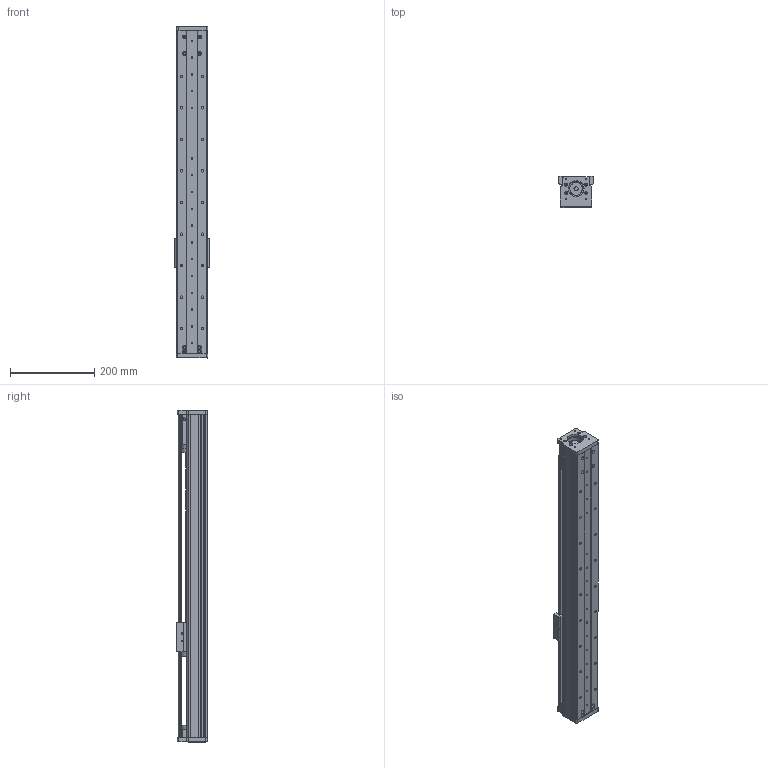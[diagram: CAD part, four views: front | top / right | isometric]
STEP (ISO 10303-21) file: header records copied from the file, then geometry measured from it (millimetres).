
FILE_DESCRIPTION (( 'STEP AP203' ), '1' );
FILE_NAME ('CF75-P550.STEP', '2016-02-22T03:09:54', ( 'Sky123.Org' ), ( 'Sky123.Org' ), 'SwSTEP 2.0', 'SolidWorks 2015', '' );
FILE_SCHEMA (( 'CONFIG_CONTROL_DESIGN' ));
Length unit declared in the file: millimetre
Products named in the file (17): 75-57祭輛萇儂假蚾啣; SFU1605-3; CF75-P550; 75嘐隅釱; 75粣創裔啣; 75支持侧板（2016.01.24改进）; 75滅袉蝶菜; 75裔啣; SFU1616幗紩佪裝; 75盓厥釱; CF75-300俴最臏倰第; angular contact ball bearings gb_Rolling bearings S7001 GB 292-94; MGW12H絳寢-俴最300; 坶踡蹟譫M12-1; 30-42薊粣ん; MGW12賑輸; 75賑雄啣
Assembly tree (20 placements, depth 2):
  CF75-P550
    MGW12賑輸
    SFU1605-3
    75粣創裔啣
    75滅袉蝶菜  x2
    75裔啣
    SFU1616幗紩佪裝
    CF75-300俴最臏倰第
    MGW12H絳寢-俴最300
    30-42薊粣ん
    75-57祭輛萇儂假蚾啣
    75嘐隅釱
    75支持侧板（2016.01.24改进）
    75盓厥釱
    angular contact ball bearings gb_Rolling bearings S7001 GB 292-94  x4
    坶踡蹟譫M12-1
    75賑雄啣
Bounding box: 82.03 x 73.93 x 790.03 mm (x, y, z)
Volume: 1725440.9 mm3; surface area: 633910.2 mm2
Topology: 20 solids, 20 shells, 1539 faces, 4939 edges, 3293 vertices
Faces by surface type: cylinder 707, plane 505, torus 212, sphere 112, bspline 3
Entity records: 54682 total; most frequent: CARTESIAN_POINT 21207, ORIENTED_EDGE 6818, DIRECTION 6525, EDGE_CURVE 3409, AXIS2_PLACEMENT_3D 2510, VERTEX_POINT 2258, EDGE_LOOP 1511, LINE 1505
